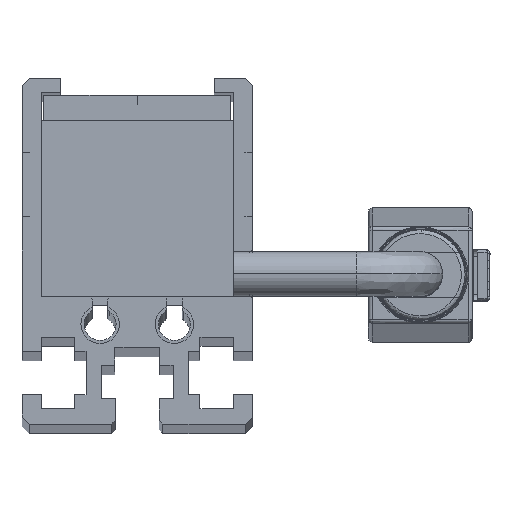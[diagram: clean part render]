
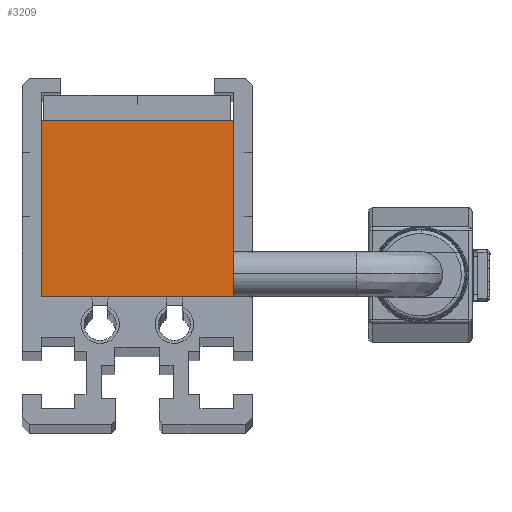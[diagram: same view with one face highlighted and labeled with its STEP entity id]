
A CAD part, top view. The second image highlights one B-rep face of the part: STEP entity #3209.
In plain terms, the highlighted planar face has unit normal (0, 0, 1).
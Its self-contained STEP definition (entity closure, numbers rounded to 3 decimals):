
#400 = VECTOR ( 'NONE', #7726, 1000. ) ;
#418 = DIRECTION ( 'NONE',  ( -1., 0., 0. ) ) ;
#1271 = EDGE_CURVE ( 'NONE', #16000, #15955, #4952, .T. ) ;
#1384 = DIRECTION ( 'NONE',  ( 0., -1., 0. ) ) ;
#2529 = VECTOR ( 'NONE', #15653, 1000. ) ;
#2994 = EDGE_LOOP ( 'NONE', ( #4877, #3814, #10309, #10816 ) ) ;
#3209 = ADVANCED_FACE ( 'NONE', ( #5677 ), #12191, .F. ) ;
#3339 = VERTEX_POINT ( 'NONE', #15142 ) ;
#3388 = CARTESIAN_POINT ( 'NONE',  ( -7.5, 13.7, 208.5 ) ) ;
#3448 = VERTEX_POINT ( 'NONE', #4880 ) ;
#3814 = ORIENTED_EDGE ( 'NONE', *, *, #14018, .F. ) ;
#4302 = DIRECTION ( 'NONE',  ( 0., 0., -1. ) ) ;
#4425 = LINE ( 'NONE', #10997, #6483 ) ;
#4809 = DIRECTION ( 'NONE',  ( 0., -1., 0. ) ) ;
#4877 = ORIENTED_EDGE ( 'NONE', *, *, #10198, .T. ) ;
#4880 = CARTESIAN_POINT ( 'NONE',  ( 7.5, 0., 208.5 ) ) ;
#4952 = LINE ( 'NONE', #10541, #2529 ) ;
#5181 = VECTOR ( 'NONE', #1384, 1000. ) ;
#5677 = FACE_OUTER_BOUND ( 'NONE', #2994, .T. ) ;
#6483 = VECTOR ( 'NONE', #4809, 1000. ) ;
#7726 = DIRECTION ( 'NONE',  ( -1., 0., 0. ) ) ;
#8817 = LINE ( 'NONE', #9153, #5181 ) ;
#8857 = AXIS2_PLACEMENT_3D ( 'NONE', #10842, #4302, #418 ) ;
#9153 = CARTESIAN_POINT ( 'NONE',  ( 7.5, 13.7, 208.5 ) ) ;
#9808 = CARTESIAN_POINT ( 'NONE',  ( 7.5, 13.7, 208.5 ) ) ;
#10198 = EDGE_CURVE ( 'NONE', #15955, #3339, #4425, .T. ) ;
#10309 = ORIENTED_EDGE ( 'NONE', *, *, #12291, .F. ) ;
#10541 = CARTESIAN_POINT ( 'NONE',  ( 7.5, 13.7, 208.5 ) ) ;
#10816 = ORIENTED_EDGE ( 'NONE', *, *, #1271, .T. ) ;
#10842 = CARTESIAN_POINT ( 'NONE',  ( 7.5, 13.7, 208.5 ) ) ;
#10997 = CARTESIAN_POINT ( 'NONE',  ( -7.5, 13.7, 208.5 ) ) ;
#12191 = PLANE ( 'NONE',  #8857 ) ;
#12201 = LINE ( 'NONE', #16786, #400 ) ;
#12291 = EDGE_CURVE ( 'NONE', #16000, #3448, #8817, .T. ) ;
#14018 = EDGE_CURVE ( 'NONE', #3448, #3339, #12201, .T. ) ;
#15142 = CARTESIAN_POINT ( 'NONE',  ( -7.5, 0., 208.5 ) ) ;
#15653 = DIRECTION ( 'NONE',  ( -1., 0., 0. ) ) ;
#15955 = VERTEX_POINT ( 'NONE', #3388 ) ;
#16000 = VERTEX_POINT ( 'NONE', #9808 ) ;
#16786 = CARTESIAN_POINT ( 'NONE',  ( 7.5, 0., 208.5 ) ) ;
